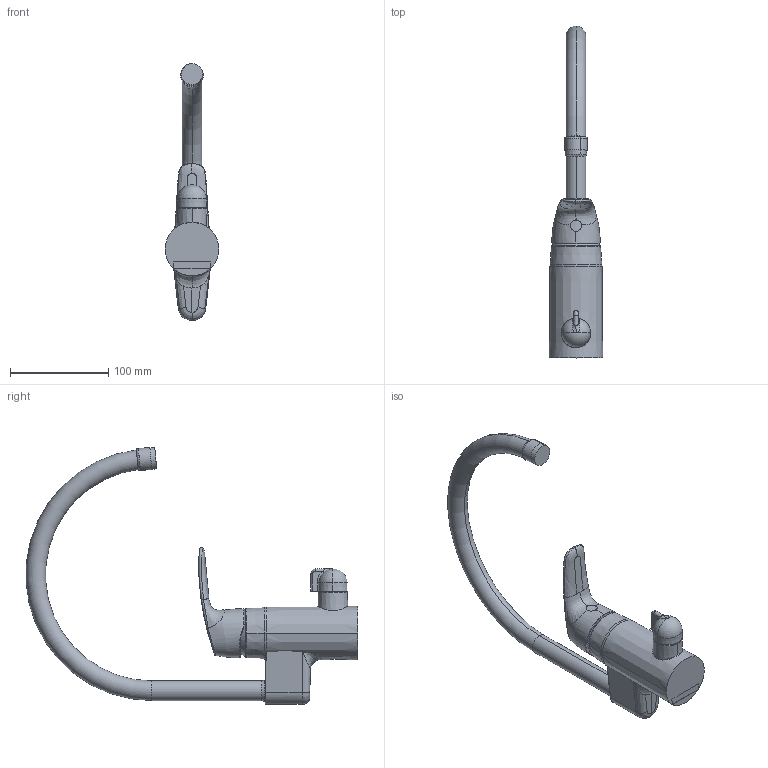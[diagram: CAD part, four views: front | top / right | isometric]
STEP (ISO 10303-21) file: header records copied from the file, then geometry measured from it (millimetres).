
FILE_DESCRIPTION (( 'STEP AP203' ), '1' );
FILE_NAME ('1039F(2020).STEP', '2020-01-03T08:44:14', ( '' ), ( '' ), 'SwSTEP 2.0', 'SolidWorks 2016', '' );
FILE_SCHEMA (( 'CONFIG_CONTROL_DESIGN' ));
Length unit declared in the file: millimetre
Products named in the file (1): 1039F(2020)
Bounding box: 54.6 x 337.71 x 261.47 mm (x, y, z)
Volume: 633301.4 mm3; surface area: 95266.7 mm2
Topology: 9 solids, 9 shells, 140 faces, 317 edges, 192 vertices
Faces by surface type: bspline 59, plane 22, cylinder 21, cone 20, torus 18
Entity records: 19039 total; most frequent: CARTESIAN_POINT 16364, ORIENTED_EDGE 618, DIRECTION 398, EDGE_CURVE 309, VERTEX_POINT 192, AXIS2_PLACEMENT_3D 179, B_SPLINE_CURVE_WITH_KNOTS 160, EDGE_LOOP 145
